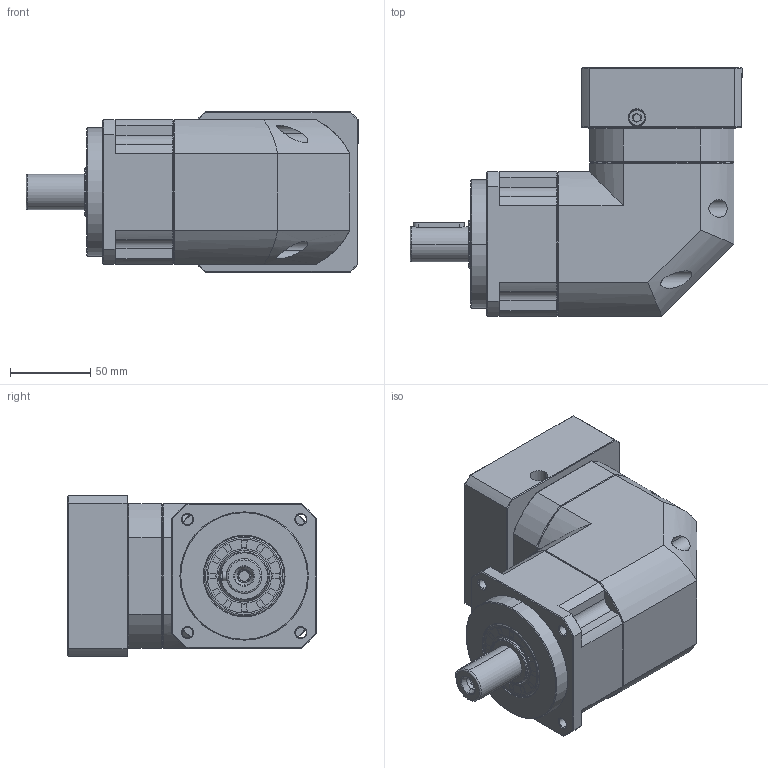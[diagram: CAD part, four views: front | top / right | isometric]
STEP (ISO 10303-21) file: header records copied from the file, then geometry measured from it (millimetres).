
FILE_DESCRIPTION (( 'STEP AP214' ), '1' );
FILE_NAME ('ZPBR090-D22-L1-P1-19-95-115-M6.step', '2024-06-07T18:34:17', ( 'Windows 蚚誧' ), ( 'Organization' ), 'SwSTEP 2.0', 'SolidWorks 2016', '' );
FILE_SCHEMA (( 'AUTOMOTIVE_DESIGN' ));
Length unit declared in the file: millimetre
Products named in the file (1): ZPBR090-D22-L1-P1-19-95-115-M6
Bounding box: 207 x 155 x 100 mm (x, y, z)
Surface area: 147381.4 mm2 (no closed solid volume)
Topology: 0 solids, 34 shells, 1818 faces, 4892 edges, 3153 vertices
Faces by surface type: plane 971, bspline 373, cone 240, cylinder 217, torus 17
Full cylindrical faces by diameter (mm): 6.72 x1
Entity records: 92965 total; most frequent: CARTESIAN_POINT 46542, ORIENTED_EDGE 9687, DIRECTION 7533, EDGE_CURVE 4887, VECTOR 3245, LINE 3245, VERTEX_POINT 3151, AXIS2_PLACEMENT_3D 2144
